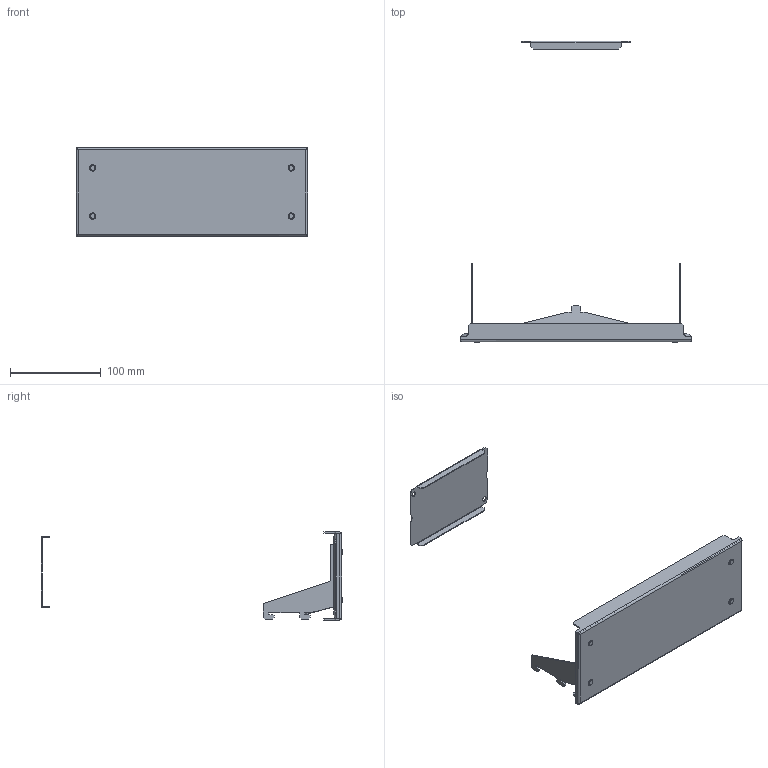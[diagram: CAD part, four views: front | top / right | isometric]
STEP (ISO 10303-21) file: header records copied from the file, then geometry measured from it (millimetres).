
FILE_DESCRIPTION(('CAx-IF Rec.Pracs.---Model Styling and Organization---1.2---2011-12-15','CAx-IF Rec.Pracs.---Geometric and Assembly Validation Properties---4.1---2014-06-16','CAx-IF Rec.Pracs.---PMI Polyline Presentation---2.0---2013-05-24'),'2;1');
FILE_NAME('R5M2W2M2BS.stp','2021-05-05T12:09:27+03:00',(''),(''),'STEP Interface 4.4 by CT CoreTechnologie','3D_Evolution4.4 by CT CoreTechnologie','');
FILE_SCHEMA(('AUTOMOTIVE_DESIGN { 1 0 10303 214 1 1 1 1 }'));
Length unit declared in the file: millimetre
Products named in the file (9): R5M2W2M2BS; RB.1237.00.00.0_-03; 5-GOST 11371-78 (DIN 125) PA 6.6_5-GOST 11371-78 (DIN 125) PA 6.6; RB.1235.00.00.0 ÑÁ_-03; PF 7x14 RAMmcc 2.0_1x2_; Ì6õ12-A5100231_straight; AC00C061_AC00C061; RB.1235.00.01.0_-03; RB.1255.00.00.0_-00
Assembly tree (11 placements, depth 3):
  R5M2W2M2BS
    RB.1237.00.00.0_-03
    5-GOST 11371-78 (DIN 125) PA 6.6_5-GOST 11371-78 (DIN 125) PA 6.6  x4
    RB.1235.00.00.0 ÑÁ_-03
      PF 7x14 RAMmcc 2.0_1x2_
      Ì6õ12-A5100231_straight
      AC00C061_AC00C061
      RB.1235.00.01.0_-03
    RB.1255.00.00.0_-00
Bounding box: 255.5 x 332 x 97 mm (x, y, z)
Surface area: 147113.8 mm2 (no closed solid volume)
Topology: 0 solids, 14 shells, 252 faces, 630 edges, 402 vertices
Faces by surface type: plane 170, cylinder 69, bspline 13
Entity records: 8124 total; most frequent: CARTESIAN_POINT 1838, ORIENTED_EDGE 1216, DIRECTION 1191, EDGE_CURVE 608, VECTOR 459, LINE 459, VERTEX_POINT 390, AXIS2_PLACEMENT_3D 366
